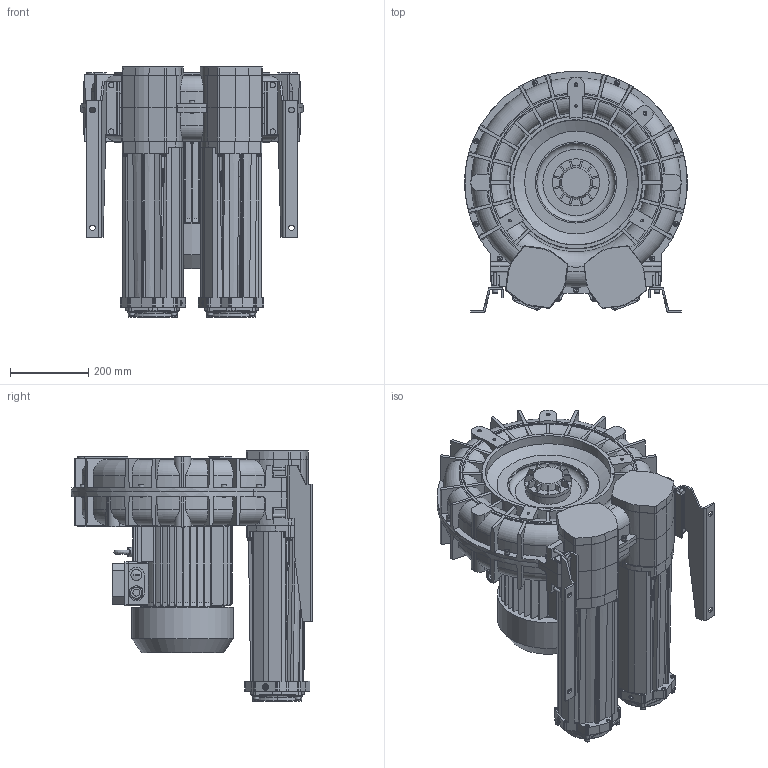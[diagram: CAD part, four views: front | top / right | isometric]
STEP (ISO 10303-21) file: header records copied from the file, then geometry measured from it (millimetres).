
FILE_DESCRIPTION (( 'STEP AP203' ), '1' );
FILE_NAME ('STP-L_e_12_MS_MOR_IE3WR_132_11.0kW-3_24-00.step', '2025-01-15T09:24:26', ( '' ), ( '' ), 'SwSTEP 2.0', 'SolidWorks 2024', '' );
FILE_SCHEMA (( 'CONFIG_CONTROL_DESIGN' ));
Length unit declared in the file: millimetre
Products named in the file (1): STP-L_e_12_MS_MOR_IE3WR_132_11.0kW-3_24-00
Bounding box: 568 x 616 x 638 mm (x, y, z)
Volume: 64806835.7 mm3; surface area: 3568887.6 mm2
Topology: 82 solids, 82 shells, 5658 faces, 14482 edges, 9004 vertices
Faces by surface type: plane 1936, cylinder 1859, bspline 826, torus 499, cone 481, sphere 57
Full cylindrical faces by diameter (mm): 6.8 x24, 7.5 x4, 8 x33, 8.4 x29, 8.5 x10, 8.566 x2, 8.8 x4, 9.98 x2, 10 x3, 11 x8, 12 x2, 12.02 x2, 13 x46, 14 x14, 16 x4, 16.5 x2, 18 x1, 19 x1, 20 x2, 21.4 x1, 24 x4, 25 x3, 28 x1, 110.4 x2, 115 x2, 120 x1, 128 x2, 207 x3, 213 x1, 259 x1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
Entity records: 270351 total; most frequent: CARTESIAN_POINT 144121, ORIENTED_EDGE 27578, DIRECTION 24238, EDGE_CURVE 13789, AXIS2_PLACEMENT_3D 9303, VERTEX_POINT 8803, EDGE_LOOP 6310, FACE_OUTER_BOUND 5948
